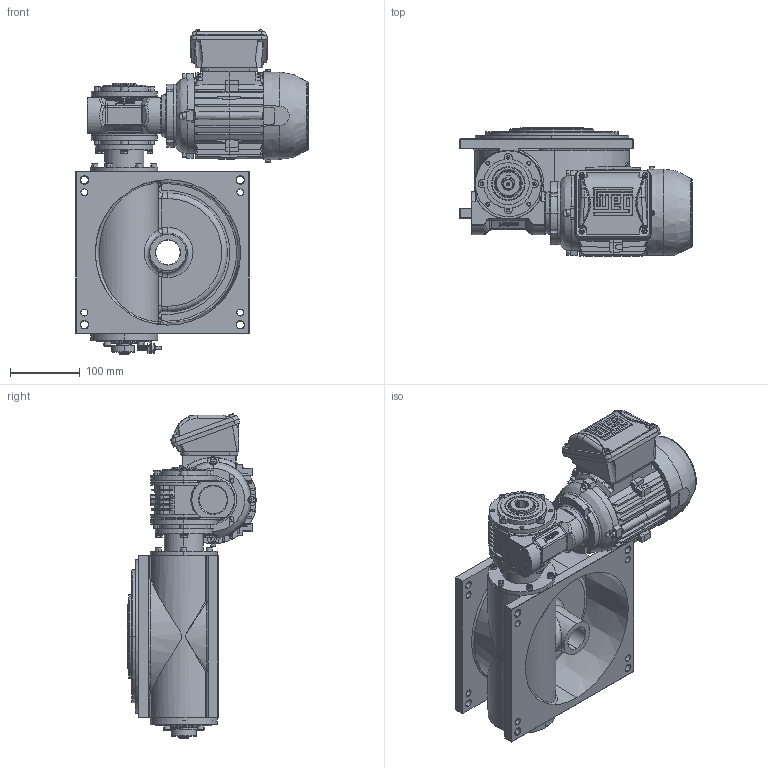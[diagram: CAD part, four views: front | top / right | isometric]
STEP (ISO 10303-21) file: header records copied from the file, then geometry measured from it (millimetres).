
FILE_DESCRIPTION (( 'STEP AP214' ), '1' );
FILE_NAME ('M190_WEG_L04_71_D1.STEP', '2021-01-25T15:36:27', ( '' ), ( '' ), 'SwSTEP 2.0', 'SolidWorks 2020', '' );
FILE_SCHEMA (( 'AUTOMOTIVE_DESIGN' ));
Length unit declared in the file: millimetre
Products named in the file (1): M190_WEG_L04_71_D1
Bounding box: 332.8 x 184.6 x 463.93 mm (x, y, z)
Surface area: 651956.4 mm2 (no closed solid volume)
Topology: 0 solids, 85 shells, 2190 faces, 7013 edges, 4746 vertices
Faces by surface type: plane 1117, cylinder 510, cone 277, bspline 193, torus 81, sphere 12
Entity records: 117035 total; most frequent: CARTESIAN_POINT 34846, ORIENTED_EDGE 11701, DIRECTION 11093, EDGE_CURVE 6982, VERTEX_POINT 4746, LINE 3765, VECTOR 3765, AXIS2_PLACEMENT_3D 3664
